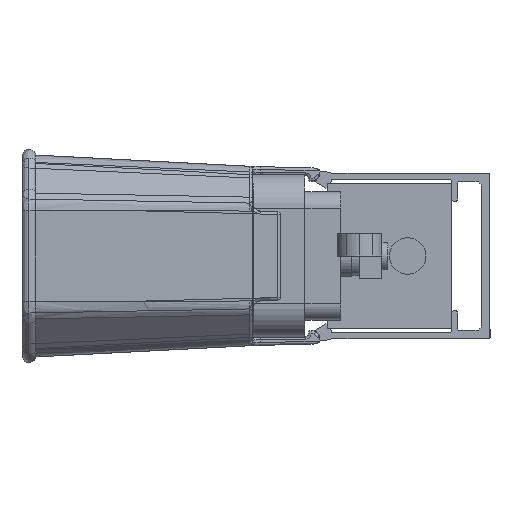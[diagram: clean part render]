
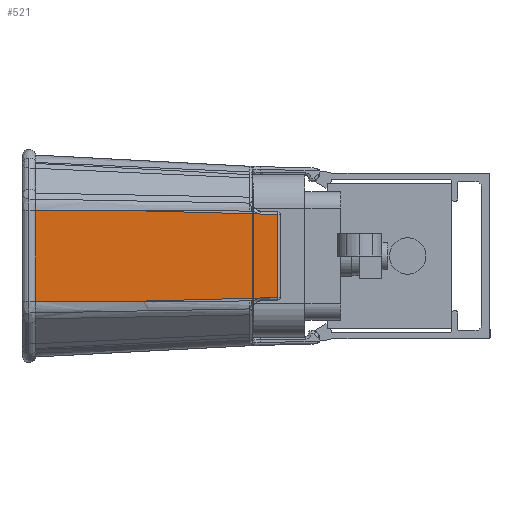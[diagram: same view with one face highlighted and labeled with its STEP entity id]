
A CAD part, left-side view. The second image highlights one B-rep face of the part: STEP entity #521.
In plain terms, the highlighted planar face has unit normal (-1, -0.026, 0).
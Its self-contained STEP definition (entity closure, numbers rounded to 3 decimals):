
#239 = ORIENTED_EDGE ( 'NONE', *, *, #8445, .F. ) ;
#521 = ADVANCED_FACE ( 'NONE', ( #12257 ), #18177, .T. ) ;
#612 = ORIENTED_EDGE ( 'NONE', *, *, #24328, .F. ) ;
#666 = DIRECTION ( 'NONE',  ( -0.026, 0.999, -0.026 ) ) ;
#1245 = EDGE_CURVE ( 'NONE', #17310, #4419, #28177, .T. ) ;
#1426 = EDGE_CURVE ( 'NONE', #17913, #12946, #27322, .T. ) ;
#1887 = CARTESIAN_POINT ( 'NONE',  ( -60.512, 55.132, -8.048 ) ) ;
#1986 = CARTESIAN_POINT ( 'NONE',  ( -60.847, 67.914, -7.986 ) ) ;
#2124 = LINE ( 'NONE', #28201, #23357 ) ;
#2289 = VECTOR ( 'NONE', #666, 1000. ) ;
#3785 = B_SPLINE_CURVE_WITH_KNOTS ( 'NONE', 3,
 ( #11367, #4368, #21849, #11084 ),
 .UNSPECIFIED., .F., .F.,
 ( 4, 4 ),
 ( 0., 1. ),
 .UNSPECIFIED. ) ;
#4368 = CARTESIAN_POINT ( 'NONE',  ( -60.341, 48.622, -7.877 ) ) ;
#4419 = VERTEX_POINT ( 'NONE', #18174 ) ;
#4445 = CARTESIAN_POINT ( 'NONE',  ( -60.512, 55.132, 8.048 ) ) ;
#4682 = EDGE_CURVE ( 'NONE', #12953, #20226, #3785, .T. ) ;
#5277 = CARTESIAN_POINT ( 'NONE',  ( -60.001, 35.6, 7.536 ) ) ;
#6737 = DIRECTION ( 'NONE',  ( -0.026, 0.999, -0.026 ) ) ;
#7099 = B_SPLINE_CURVE_WITH_KNOTS ( 'NONE', 3,
 ( #4445, #13173, #21920, #24512 ),
 .UNSPECIFIED., .F., .F.,
 ( 4, 4 ),
 ( -0.02, -0.001 ),
 .UNSPECIFIED. ) ;
#7490 = VERTEX_POINT ( 'NONE', #15368 ) ;
#7618 = VERTEX_POINT ( 'NONE', #26578 ) ;
#7703 = DIRECTION ( 'NONE',  ( 0., 0., -1. ) ) ;
#7941 = ORIENTED_EDGE ( 'NONE', *, *, #10011, .T. ) ;
#8018 = ORIENTED_EDGE ( 'NONE', *, *, #4682, .T. ) ;
#8445 = EDGE_CURVE ( 'NONE', #12953, #12946, #23520, .T. ) ;
#9202 = CARTESIAN_POINT ( 'NONE',  ( -60.171, 42.111, 7.707 ) ) ;
#9549 = DIRECTION ( 'NONE',  ( -1., -0.026, 0. ) ) ;
#10011 = EDGE_CURVE ( 'NONE', #4419, #23327, #18442, .T. ) ;
#10597 = EDGE_LOOP ( 'NONE', ( #13793, #239, #8018, #612, #10746, #21933, #16378, #7941, #17055, #27664 ) ) ;
#10746 = ORIENTED_EDGE ( 'NONE', *, *, #26132, .F. ) ;
#11084 = CARTESIAN_POINT ( 'NONE',  ( -60.001, 35.6, -7.536 ) ) ;
#11367 = CARTESIAN_POINT ( 'NONE',  ( -60.512, 55.132, -8.048 ) ) ;
#12086 = VECTOR ( 'NONE', #13784, 1000. ) ;
#12257 = FACE_OUTER_BOUND ( 'NONE', #10597, .T. ) ;
#12946 = VERTEX_POINT ( 'NONE', #21537 ) ;
#12953 = VERTEX_POINT ( 'NONE', #1887 ) ;
#13173 = CARTESIAN_POINT ( 'NONE',  ( -60.679, 61.523, 8.018 ) ) ;
#13314 = AXIS2_PLACEMENT_3D ( 'NONE', #27037, #9549, #18444 ) ;
#13443 = CARTESIAN_POINT ( 'NONE',  ( -60.512, 55.132, 8.048 ) ) ;
#13766 = VECTOR ( 'NONE', #19172, 1000. ) ;
#13784 = DIRECTION ( 'NONE',  ( 0., 0., -1. ) ) ;
#13793 = ORIENTED_EDGE ( 'NONE', *, *, #1426, .T. ) ;
#14420 = DIRECTION ( 'NONE',  ( -0.026, 0.999, 0.026 ) ) ;
#15368 = CARTESIAN_POINT ( 'NONE',  ( -59.962, 34.139, -7.498 ) ) ;
#15759 = CARTESIAN_POINT ( 'NONE',  ( -60.001, 35.6, -7.536 ) ) ;
#15977 = VERTEX_POINT ( 'NONE', #13443 ) ;
#16378 = ORIENTED_EDGE ( 'NONE', *, *, #1245, .T. ) ;
#16545 = EDGE_CURVE ( 'NONE', #15977, #23327, #22638, .T. ) ;
#17055 = ORIENTED_EDGE ( 'NONE', *, *, #16545, .F. ) ;
#17203 = CARTESIAN_POINT ( 'NONE',  ( -60.512, 55.132, -8.048 ) ) ;
#17310 = VERTEX_POINT ( 'NONE', #23675 ) ;
#17686 = CARTESIAN_POINT ( 'NONE',  ( -60.341, 48.622, 7.877 ) ) ;
#17827 = CARTESIAN_POINT ( 'NONE',  ( -60.512, 55.132, 8.048 ) ) ;
#17910 = CARTESIAN_POINT ( 'NONE',  ( -60., 35.595, -7.536 ) ) ;
#17913 = VERTEX_POINT ( 'NONE', #22754 ) ;
#17967 = CARTESIAN_POINT ( 'NONE',  ( -60.001, 35.6, 7.536 ) ) ;
#18174 = CARTESIAN_POINT ( 'NONE',  ( -59.962, 34.139, 7.498 ) ) ;
#18177 = PLANE ( 'NONE',  #13314 ) ;
#18442 = LINE ( 'NONE', #27317, #25719 ) ;
#18444 = DIRECTION ( 'NONE',  ( 0., 0., -1. ) ) ;
#19172 = DIRECTION ( 'NONE',  ( -0.026, 0.999, 0.026 ) ) ;
#19475 = CARTESIAN_POINT ( 'NONE',  ( -61.014, 74.304, -8.043 ) ) ;
#19992 = EDGE_CURVE ( 'NONE', #15977, #17913, #7099, .T. ) ;
#20226 = VERTEX_POINT ( 'NONE', #15759 ) ;
#20329 = LINE ( 'NONE', #17910, #2289 ) ;
#20593 = CARTESIAN_POINT ( 'NONE',  ( -61.014, 74.304, -8.056 ) ) ;
#21537 = CARTESIAN_POINT ( 'NONE',  ( -61.014, 74.304, -8.043 ) ) ;
#21626 = CARTESIAN_POINT ( 'NONE',  ( -60.679, 61.523, -8.018 ) ) ;
#21849 = CARTESIAN_POINT ( 'NONE',  ( -60.171, 42.111, -7.707 ) ) ;
#21920 = CARTESIAN_POINT ( 'NONE',  ( -60.847, 67.914, 7.986 ) ) ;
#21933 = ORIENTED_EDGE ( 'NONE', *, *, #25078, .F. ) ;
#22638 = B_SPLINE_CURVE_WITH_KNOTS ( 'NONE', 3,
 ( #17827, #17686, #9202, #17967 ),
 .UNSPECIFIED., .F., .F.,
 ( 4, 4 ),
 ( 0., 1. ),
 .UNSPECIFIED. ) ;
#22754 = CARTESIAN_POINT ( 'NONE',  ( -61.014, 74.304, 8.043 ) ) ;
#23327 = VERTEX_POINT ( 'NONE', #5277 ) ;
#23357 = VECTOR ( 'NONE', #6737, 1000. ) ;
#23520 = B_SPLINE_CURVE_WITH_KNOTS ( 'NONE', 3,
 ( #17203, #21626, #1986, #19475 ),
 .UNSPECIFIED., .F., .F.,
 ( 4, 4 ),
 ( -0.02, -0.001 ),
 .UNSPECIFIED. ) ;
#23675 = CARTESIAN_POINT ( 'NONE',  ( -59.882, 31.087, 7.418 ) ) ;
#24328 = EDGE_CURVE ( 'NONE', #7490, #20226, #2124, .T. ) ;
#24512 = CARTESIAN_POINT ( 'NONE',  ( -61.014, 74.304, 8.043 ) ) ;
#24694 = LINE ( 'NONE', #25129, #12086 ) ;
#25078 = EDGE_CURVE ( 'NONE', #17310, #7618, #24694, .T. ) ;
#25129 = CARTESIAN_POINT ( 'NONE',  ( -59.882, 31.087, -7.405 ) ) ;
#25691 = VECTOR ( 'NONE', #7703, 1000. ) ;
#25719 = VECTOR ( 'NONE', #14420, 1000. ) ;
#26049 = CARTESIAN_POINT ( 'NONE',  ( -60., 35.595, 7.536 ) ) ;
#26132 = EDGE_CURVE ( 'NONE', #7618, #7490, #20329, .T. ) ;
#26578 = CARTESIAN_POINT ( 'NONE',  ( -59.882, 31.087, -7.418 ) ) ;
#27037 = CARTESIAN_POINT ( 'NONE',  ( -59.999, 35.561, -8.864 ) ) ;
#27317 = CARTESIAN_POINT ( 'NONE',  ( -60., 35.595, 7.536 ) ) ;
#27322 = LINE ( 'NONE', #20593, #25691 ) ;
#27664 = ORIENTED_EDGE ( 'NONE', *, *, #19992, .T. ) ;
#28177 = LINE ( 'NONE', #26049, #13766 ) ;
#28201 = CARTESIAN_POINT ( 'NONE',  ( -60., 35.595, -7.536 ) ) ;
